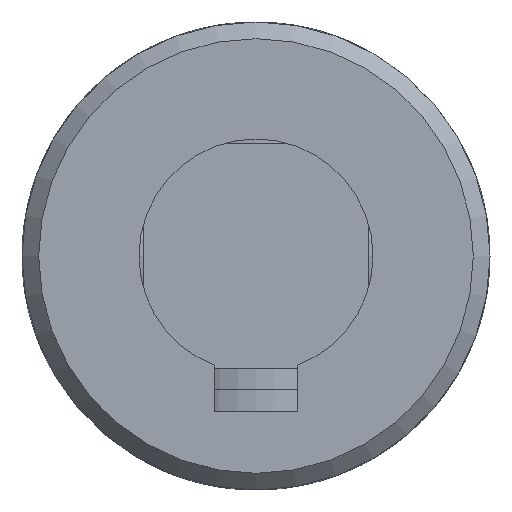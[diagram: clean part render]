
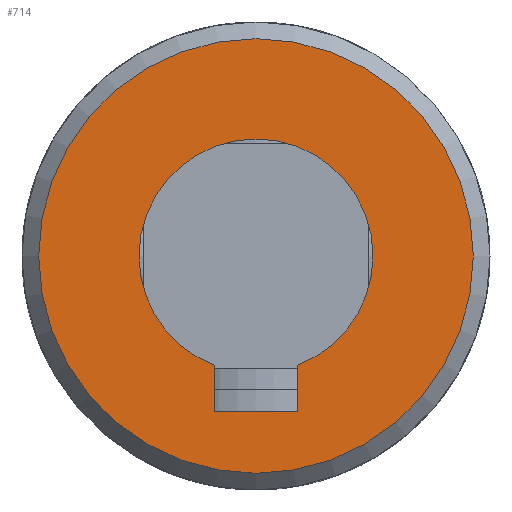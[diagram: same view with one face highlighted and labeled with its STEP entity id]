
A CAD part, front view. The second image highlights one B-rep face of the part: STEP entity #714.
In plain terms, the highlighted planar face has unit normal (0, -1, 0).
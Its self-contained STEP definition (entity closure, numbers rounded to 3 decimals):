
#81=LINE('',#1096,#114);
#86=LINE('',#1113,#119);
#87=LINE('',#1126,#120);
#114=VECTOR('',#896,2.762);
#119=VECTOR('',#907,2.762);
#120=VECTOR('',#910,5.);
#146=PLANE('',#779);
#171=FACE_BOUND('',#259,.T.);
#200=FACE_OUTER_BOUND('',#258,.T.);
#258=EDGE_LOOP('',(#571));
#259=EDGE_LOOP('',(#572,#573,#574,#575));
#300=CIRCLE('',#767,7.);
#305=CIRCLE('',#777,13.);
#342=VERTEX_POINT('',#1085);
#343=VERTEX_POINT('',#1087);
#345=VERTEX_POINT('',#1095);
#351=VERTEX_POINT('',#1111);
#353=VERTEX_POINT('',#1132);
#417=EDGE_CURVE('',#343,#342,#300,.T.);
#420=EDGE_CURVE('',#345,#343,#81,.T.);
#428=EDGE_CURVE('',#342,#351,#86,.T.);
#430=EDGE_CURVE('',#351,#345,#87,.T.);
#433=EDGE_CURVE('',#353,#353,#305,.T.);
#571=ORIENTED_EDGE('',*,*,#433,.F.);
#572=ORIENTED_EDGE('',*,*,#428,.T.);
#573=ORIENTED_EDGE('',*,*,#430,.T.);
#574=ORIENTED_EDGE('',*,*,#420,.T.);
#575=ORIENTED_EDGE('',*,*,#417,.T.);
#714=ADVANCED_FACE('',(#200,#171),#146,.F.);
#767=AXIS2_PLACEMENT_3D('',#1088,#891,#892);
#777=AXIS2_PLACEMENT_3D('',#1133,#919,#920);
#779=AXIS2_PLACEMENT_3D('',#1309,#927,#928);
#891=DIRECTION('center_axis',(0.,1.,0.));
#892=DIRECTION('ref_axis',(-0.357,0.,0.934));
#896=DIRECTION('',(0.,0.,1.));
#907=DIRECTION('',(0.,0.,-1.));
#910=DIRECTION('',(-1.,0.,0.));
#919=DIRECTION('center_axis',(0.,1.,0.));
#920=DIRECTION('ref_axis',(1.,0.,0.));
#927=DIRECTION('center_axis',(0.,1.,0.));
#928=DIRECTION('ref_axis',(0.,0.,1.));
#1085=CARTESIAN_POINT('',(2.5,-36.5,-6.538));
#1087=CARTESIAN_POINT('',(-2.5,-36.5,-6.538));
#1088=CARTESIAN_POINT('Origin',(0.,-36.5,0.));
#1095=CARTESIAN_POINT('',(-2.5,-36.5,-9.3));
#1096=CARTESIAN_POINT('',(-2.5,-36.5,-4.65));
#1111=CARTESIAN_POINT('',(2.5,-36.5,-9.3));
#1113=CARTESIAN_POINT('',(2.5,-36.5,-3.269));
#1126=CARTESIAN_POINT('',(1.25,-36.5,-9.3));
#1132=CARTESIAN_POINT('',(-13.,-36.5,0.));
#1133=CARTESIAN_POINT('Origin',(0.,-36.5,0.));
#1309=CARTESIAN_POINT('Origin',(0.,-36.5,0.));
